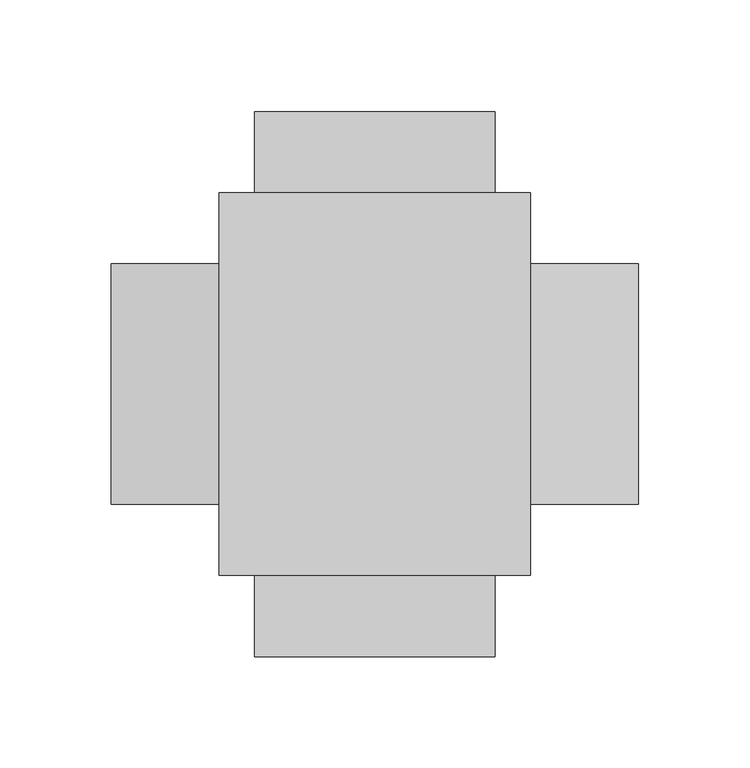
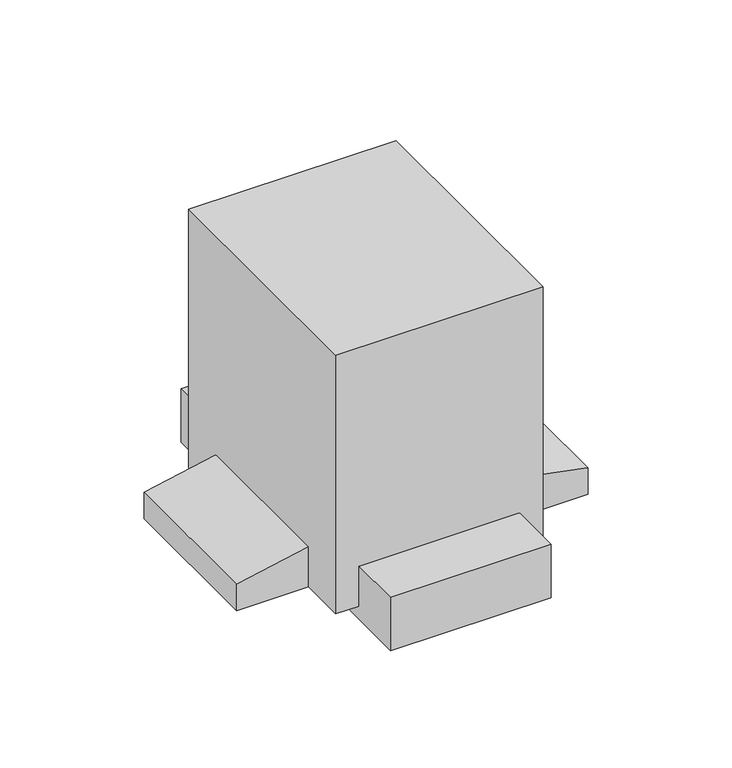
"""IFC4 building model written with IfcOpenShell, lengths in millimetres: proxy geometry, Afterset-Walkercell-Wiremold : Afterset-Walkercell-Wiremold."""

from ifc_helpers import new_model, si_unit, origin, place, context, project, spatial, faceted_brep, source, transform, mapped, element, save


def electrical_fixtures_b959fdb8(model_context):
    return source(origin(), model_context, "Body", "Brep", [
        faceted_brep([(69.85, 85.725, 193.675), (-69.85, 85.725, 193.675), (-69.85, -85.725, 193.675), (69.85, -85.725, 193.675), (-53.975, 122.2375, 0.0), (53.975, 122.2375, 0.0), (53.975, -122.2375, 0.0), (-53.975, -122.2375, 0.0), (53.975, -85.725, 9.525), (53.975, 85.725, 9.525), (69.85, 85.725, 9.525), (69.85, 53.975, 9.525), (118.2751, 53.975, 9.525), (118.2751, -53.975, 9.525), (69.85, -53.975, 9.525), (69.85, -85.725, 9.525), (53.975, -85.725, 38.1), (53.975, -122.2375, 38.1), (53.975, 122.2375, 38.1), (53.975, 85.725, 38.1), (-53.975, 85.725, 9.525), (-53.975, -85.725, 9.525), (-69.85, -85.725, 9.525), (-69.85, -53.975, 9.525), (-118.2751, -53.975, 9.525), (-118.2751, 53.975, 9.525), (-69.85, 53.975, 9.525), (-69.85, 85.725, 9.525), (-53.975, 85.725, 38.1), (-53.975, 122.2375, 38.1), (-53.975, -122.2375, 38.1), (-53.975, -85.725, 38.1), (-69.85, 53.975, 38.1), (-69.85, -53.975, 38.1), (69.85, -53.975, 38.1), (69.85, 53.975, 38.1), (118.2751, -53.975, 28.575), (-118.2751, -53.975, 28.575), (118.2751, 53.975, 28.575), (-118.2751, 53.975, 28.575)], [[[0, 1, 2, 3]], [[4, 5, 6, 7]], [[8, 9, 10, 11, 12, 13, 14, 15]], [[9, 8, 16, 17, 6, 5, 18, 19]], [[20, 21, 22, 23, 24, 25, 26, 27]], [[21, 20, 28, 29, 4, 7, 30, 31]], [[1, 0, 10, 9, 19, 28, 20, 27]], [[2, 1, 27, 26, 32, 33, 23, 22]], [[3, 2, 22, 21, 31, 16, 8, 15]], [[0, 3, 15, 14, 34, 35, 11, 10]], [[31, 30, 17, 16]], [[18, 29, 28, 19]], [[29, 18, 5, 4]], [[17, 30, 7, 6]], [[36, 34, 14, 13]], [[37, 24, 23, 33]], [[38, 12, 11, 35]], [[39, 32, 26, 25]], [[34, 36, 38, 35]], [[36, 13, 12, 38]], [[24, 37, 39, 25]], [[37, 33, 32, 39]]]),
    ])


if __name__ == "__main__":
    model = new_model("IFC4")
    model_context = context("Model", 3, world=origin())
    ifc_project = project(units=[si_unit("LENGTHUNIT", "METRE", prefix="MILLI")], contexts=[model_context])
    site = spatial("IfcSite", under=ifc_project)
    building = spatial("IfcBuilding", under=site)
    placement = place(None, origin())
    electrical_fixtures_shape = electrical_fixtures_b959fdb8(model_context)
    element("IfcBuildingElementProxy", 1, Name="Afterset-Walkercell-Wiremold : Afterset-Walkercell-Wiremold", ObjectType="Afterset-Walkercell-Wiremold : Afterset-Walkercell-Wiremold", at=placement, inside=building, context=model_context, shape_type="MappedRepresentation", body=[
        mapped(electrical_fixtures_shape, transform((0.0, 0.0, 0.0), x_axis=(1.0, 0.0, 0.0), y_axis=(0.0, 1.0, 0.0), z_axis=(0.0, 0.0, 1.0))),
    ])
    save(model, "model.ifc")
